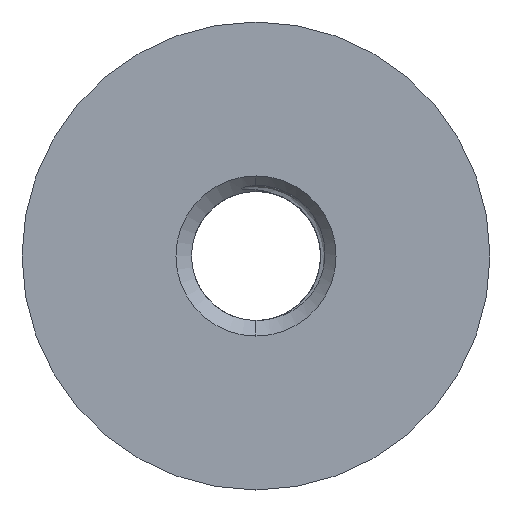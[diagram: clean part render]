
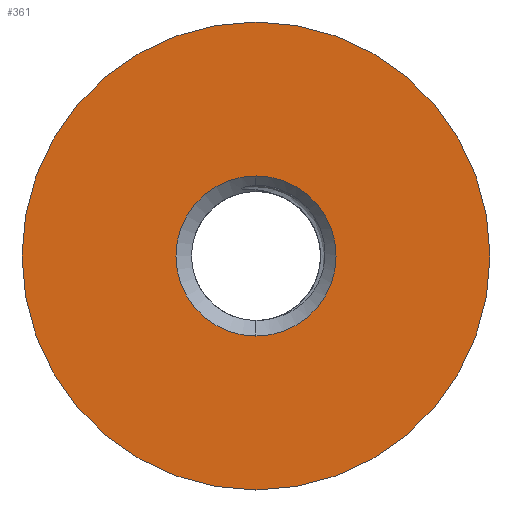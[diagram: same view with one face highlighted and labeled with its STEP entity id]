
A CAD part, left-side view. The second image highlights one B-rep face of the part: STEP entity #361.
In plain terms, the highlighted planar face has unit normal (-1, 0, 0).
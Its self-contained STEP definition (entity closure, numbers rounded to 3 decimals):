
#92 = VERTEX_POINT ( 'NONE', #4319 ) ;
#113 = EDGE_CURVE ( 'NONE', #246, #196, #4407, .T. ) ;
#149 = VERTEX_POINT ( 'NONE', #4462 ) ;
#196 = VERTEX_POINT ( 'NONE', #4576 ) ;
#221 = EDGE_CURVE ( 'NONE', #92, #149, #4595, .T. ) ;
#238 = EDGE_CURVE ( 'NONE', #149, #92, #4699, .T. ) ;
#246 = VERTEX_POINT ( 'NONE', #1865 ) ;
#304 = ORIENTED_EDGE ( 'NONE', *, *, #113, .F. ) ;
#305 = EDGE_LOOP ( 'NONE', ( #306, #450 ) ) ;
#306 = ORIENTED_EDGE ( 'NONE', *, *, #221, .T. ) ;
#359 = EDGE_LOOP ( 'NONE', ( #362, #304 ) ) ;
#361 = ADVANCED_FACE ( 'NONE', ( #1556, #1551 ), #1550, .T. ) ;
#362 = ORIENTED_EDGE ( 'NONE', *, *, #363, .F. ) ;
#363 = EDGE_CURVE ( 'NONE', #196, #246, #1567, .T. ) ;
#450 = ORIENTED_EDGE ( 'NONE', *, *, #238, .T. ) ;
#1546 = DIRECTION ( 'NONE',  ( 0., 0., 1. ) ) ;
#1547 = DIRECTION ( 'NONE',  ( -1., 0., 0. ) ) ;
#1548 = CARTESIAN_POINT ( 'NONE',  ( -5., 5.033, 0. ) ) ;
#1549 = AXIS2_PLACEMENT_3D ( 'NONE', #1548, #1547, #1546 ) ;
#1550 = PLANE ( 'NONE',  #1549 ) ;
#1551 = FACE_BOUND ( 'NONE', #305, .T. ) ;
#1556 = FACE_OUTER_BOUND ( 'NONE', #359, .T. ) ;
#1565 = DIRECTION ( 'NONE',  ( 1., 0., 0. ) ) ;
#1567 = CIRCLE ( 'NONE', #1571, 7.5 ) ;
#1571 = AXIS2_PLACEMENT_3D ( 'NONE', #1585, #1565, #1600 ) ;
#1585 = CARTESIAN_POINT ( 'NONE',  ( -5., 0., 0. ) ) ;
#1600 = DIRECTION ( 'NONE',  ( 0., 0., 1. ) ) ;
#1865 = CARTESIAN_POINT ( 'NONE',  ( -5., 0., -7.5 ) ) ;
#4319 = CARTESIAN_POINT ( 'NONE',  ( -5., 0., 2.567 ) ) ;
#4395 = DIRECTION ( 'NONE',  ( 0., 0., 1. ) ) ;
#4396 = DIRECTION ( 'NONE',  ( 1., 0., 0. ) ) ;
#4397 = CARTESIAN_POINT ( 'NONE',  ( -5., 0., 0. ) ) ;
#4398 = AXIS2_PLACEMENT_3D ( 'NONE', #4397, #4396, #4395 ) ;
#4407 = CIRCLE ( 'NONE', #4398, 7.5 ) ;
#4462 = CARTESIAN_POINT ( 'NONE',  ( -5., 0., -2.567 ) ) ;
#4576 = CARTESIAN_POINT ( 'NONE',  ( -5., 0., 7.5 ) ) ;
#4595 = CIRCLE ( 'NONE', #4622, 2.567 ) ;
#4599 = DIRECTION ( 'NONE',  ( 0., 0., 1. ) ) ;
#4600 = DIRECTION ( 'NONE',  ( 1., 0., 0. ) ) ;
#4601 = CARTESIAN_POINT ( 'NONE',  ( -5., 0., 0. ) ) ;
#4602 = AXIS2_PLACEMENT_3D ( 'NONE', #4601, #4600, #4599 ) ;
#4619 = DIRECTION ( 'NONE',  ( 0., 0., 1. ) ) ;
#4620 = DIRECTION ( 'NONE',  ( 1., 0., 0. ) ) ;
#4621 = CARTESIAN_POINT ( 'NONE',  ( -5., 0., 0. ) ) ;
#4622 = AXIS2_PLACEMENT_3D ( 'NONE', #4621, #4620, #4619 ) ;
#4699 = CIRCLE ( 'NONE', #4602, 2.567 ) ;
